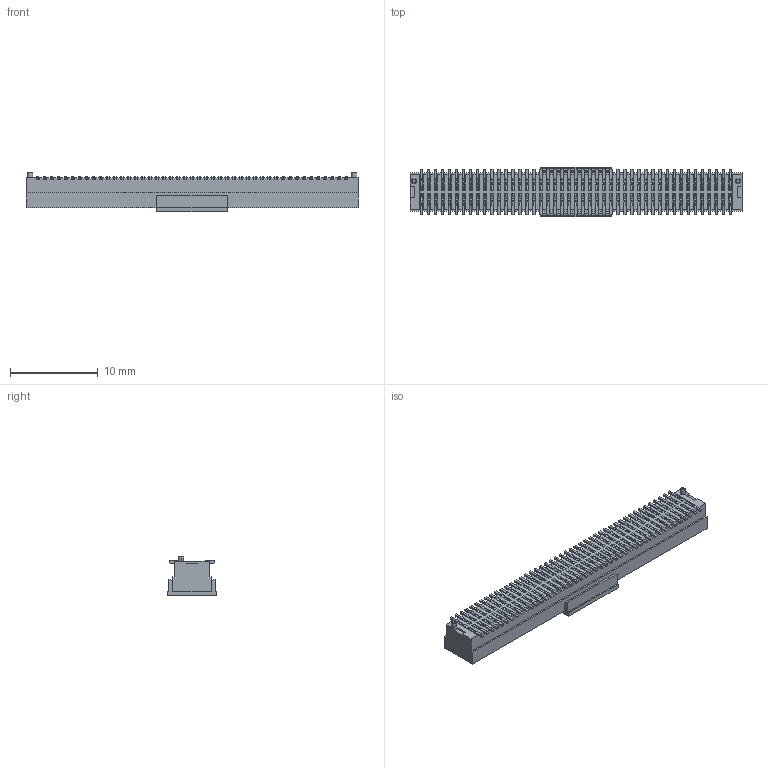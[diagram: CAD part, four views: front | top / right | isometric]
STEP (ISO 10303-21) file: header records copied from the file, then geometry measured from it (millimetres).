
FILE_DESCRIPTION (( 'STEP AP203' ), '1' );
FILE_NAME ('HC-PBB08-2-90-F-H3.5-G1-R-P-04(BTB0.8 双槽 母座 立贴 带柱 编带+盖)-HCTL.STEP', '2025-12-13T03:50:00', ( '' ), ( '' ), 'SwSTEP 2.0', 'SolidWorks 2025', '' );
FILE_SCHEMA (( 'CONFIG_CONTROL_DESIGN' ));
Products named in the file (1): HC-PBB08-2-90-F-H3.5-G1-R-P-04(BTB0.8 双槽 母座 立贴 带柱 编带+盖)-HCTL
Bounding box: 37.9 x 5.6 x 4.55 mm (x, y, z)
Volume: 449.1 mm3; surface area: 2474.5 mm2
Topology: 2 solids, 2 shells, 6918 faces, 21636 edges, 14206 vertices
Faces by surface type: plane 4570, cylinder 2344, torus 4
Entity records: 242279 total; most frequent: CARTESIAN_POINT 45041, ORIENTED_EDGE 43272, DIRECTION 39650, EDGE_CURVE 21636, VECTOR 16420, LINE 16420, VERTEX_POINT 14206, AXIS2_PLACEMENT_3D 11615
